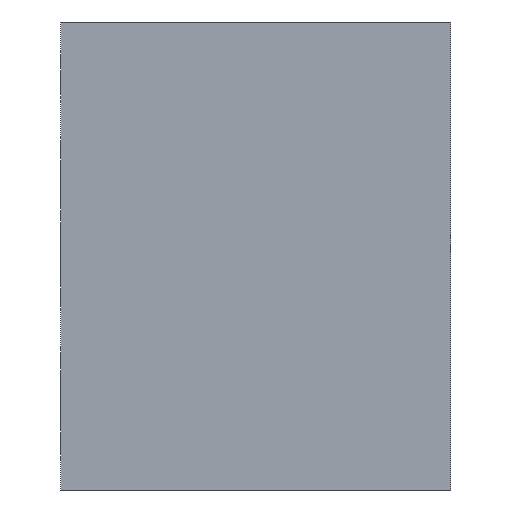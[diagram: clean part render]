
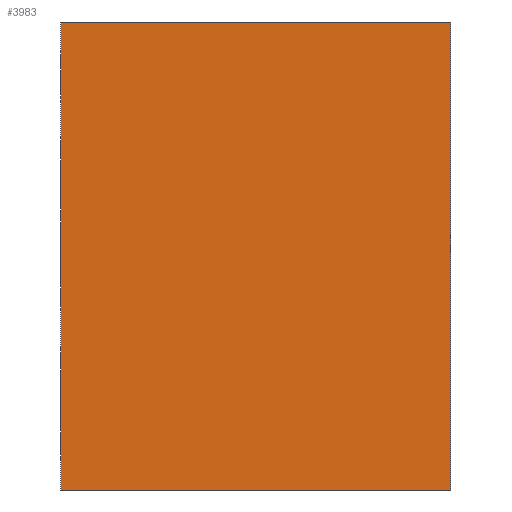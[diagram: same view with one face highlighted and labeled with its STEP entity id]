
A CAD part, left-side view. The second image highlights one B-rep face of the part: STEP entity #3983.
In plain terms, the highlighted planar face has unit normal (-1, 0, 0).
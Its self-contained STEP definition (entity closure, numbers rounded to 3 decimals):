
#483 = VERTEX_POINT ( 'NONE', #17651 ) ;
#599 = LINE ( 'NONE', #10545, #9568 ) ;
#773 = ORIENTED_EDGE ( 'NONE', *, *, #5627, .T. ) ;
#1195 = ORIENTED_EDGE ( 'NONE', *, *, #10805, .F. ) ;
#2013 = AXIS2_PLACEMENT_3D ( 'NONE', #4525, #4519, #4458 ) ;
#3983 = ADVANCED_FACE ( 'NONE', ( #5458 ), #4716, .F. ) ;
#4458 = DIRECTION ( 'NONE',  ( 0., 0., -1. ) ) ;
#4519 = DIRECTION ( 'NONE',  ( 1., 0., 0. ) ) ;
#4525 = CARTESIAN_POINT ( 'NONE',  ( 0., 0., 60. ) ) ;
#4716 = PLANE ( 'NONE',  #2013 ) ;
#5176 = VECTOR ( 'NONE', #6942, 1000. ) ;
#5458 = FACE_OUTER_BOUND ( 'NONE', #11508, .T. ) ;
#5627 = EDGE_CURVE ( 'NONE', #13465, #483, #9679, .T. ) ;
#5804 = CARTESIAN_POINT ( 'NONE',  ( 0., 50., 60. ) ) ;
#6942 = DIRECTION ( 'NONE',  ( 0., 0., -1. ) ) ;
#7241 = CARTESIAN_POINT ( 'NONE',  ( 0., 50., 60. ) ) ;
#7626 = EDGE_CURVE ( 'NONE', #10196, #13465, #7942, .T. ) ;
#7934 = DIRECTION ( 'NONE',  ( 0., 0., -1. ) ) ;
#7942 = LINE ( 'NONE', #7241, #5176 ) ;
#8201 = VECTOR ( 'NONE', #7934, 1000. ) ;
#8318 = CARTESIAN_POINT ( 'NONE',  ( 0., 0., 60. ) ) ;
#9234 = CARTESIAN_POINT ( 'NONE',  ( 0., 50., 0. ) ) ;
#9568 = VECTOR ( 'NONE', #10456, 1000. ) ;
#9679 = LINE ( 'NONE', #10732, #14822 ) ;
#9841 = ORIENTED_EDGE ( 'NONE', *, *, #10838, .F. ) ;
#10196 = VERTEX_POINT ( 'NONE', #5804 ) ;
#10456 = DIRECTION ( 'NONE',  ( 0., -1., 0. ) ) ;
#10545 = CARTESIAN_POINT ( 'NONE',  ( 0., 0., 60. ) ) ;
#10621 = DIRECTION ( 'NONE',  ( 0., -1., 0. ) ) ;
#10732 = CARTESIAN_POINT ( 'NONE',  ( 0., 0., 0. ) ) ;
#10805 = EDGE_CURVE ( 'NONE', #10196, #18351, #599, .T. ) ;
#10838 = EDGE_CURVE ( 'NONE', #18351, #483, #12889, .T. ) ;
#11508 = EDGE_LOOP ( 'NONE', ( #773, #9841, #1195, #15029 ) ) ;
#12889 = LINE ( 'NONE', #8318, #8201 ) ;
#13465 = VERTEX_POINT ( 'NONE', #9234 ) ;
#14822 = VECTOR ( 'NONE', #10621, 1000. ) ;
#15029 = ORIENTED_EDGE ( 'NONE', *, *, #7626, .T. ) ;
#16188 = CARTESIAN_POINT ( 'NONE',  ( 0., 0., 60. ) ) ;
#17651 = CARTESIAN_POINT ( 'NONE',  ( 0., 0., 0. ) ) ;
#18351 = VERTEX_POINT ( 'NONE', #16188 ) ;
